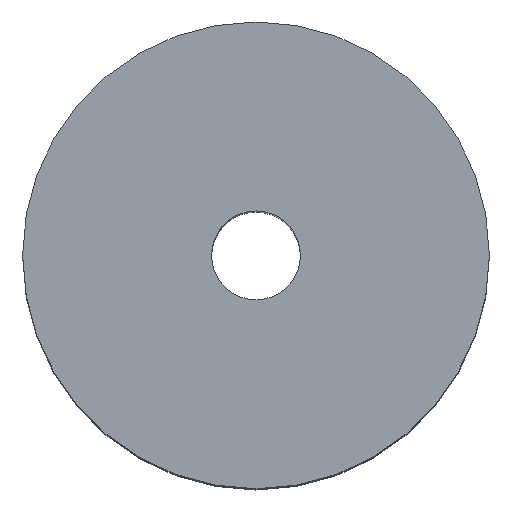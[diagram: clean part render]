
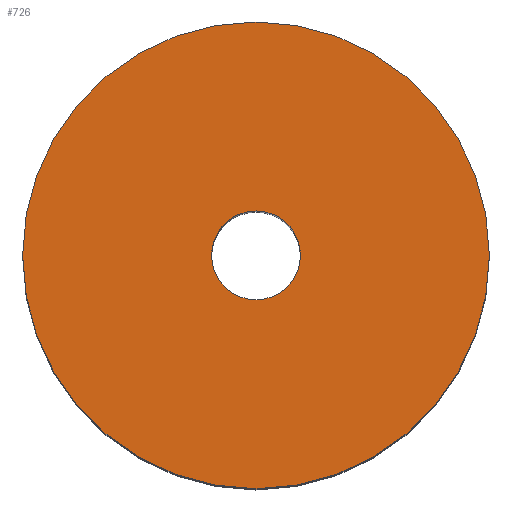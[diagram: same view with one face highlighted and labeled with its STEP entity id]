
A CAD part, top view. The second image highlights one B-rep face of the part: STEP entity #726.
In plain terms, the highlighted planar face has unit normal (0, 0, 1).
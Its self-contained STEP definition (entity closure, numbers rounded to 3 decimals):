
#582=CARTESIAN_POINT('Vertex',(10.5,0.,33.)) ;
#596=CARTESIAN_POINT('Vertex',(-10.5,0.,33.)) ;
#599=CARTESIAN_POINT('Axis2P3D Location',(0.,0.,33.)) ;
#616=CARTESIAN_POINT('Axis2P3D Location',(0.,0.,33.)) ;
#675=CARTESIAN_POINT('Axis2P3D Location',(0.,0.,33.)) ;
#679=CARTESIAN_POINT('Vertex',(2.,0.,33.)) ;
#681=CARTESIAN_POINT('Vertex',(-2.,0.,33.)) ;
#701=CARTESIAN_POINT('Axis2P3D Location',(0.,0.,33.)) ;
#713=CARTESIAN_POINT('Axis2P3D Location',(0.,0.,33.)) ;
#600=DIRECTION('Axis2P3D Direction',(0.,0.,1.)) ;
#617=DIRECTION('Axis2P3D Direction',(0.,0.,1.)) ;
#676=DIRECTION('Axis2P3D Direction',(0.,0.,1.)) ;
#702=DIRECTION('Axis2P3D Direction',(0.,0.,1.)) ;
#714=DIRECTION('Axis2P3D Direction',(0.,0.,1.)) ;
#715=DIRECTION('Axis2P3D XDirection',(1.,0.,0.)) ;
#601=AXIS2_PLACEMENT_3D('Circle Axis2P3D',#599,#600,$) ;
#618=AXIS2_PLACEMENT_3D('Circle Axis2P3D',#616,#617,$) ;
#677=AXIS2_PLACEMENT_3D('Circle Axis2P3D',#675,#676,$) ;
#703=AXIS2_PLACEMENT_3D('Circle Axis2P3D',#701,#702,$) ;
#716=AXIS2_PLACEMENT_3D('Plane Axis2P3D',#713,#714,#715) ;
#719=ORIENTED_EDGE('',*,*,#603,.T.) ;
#720=ORIENTED_EDGE('',*,*,#620,.T.) ;
#723=ORIENTED_EDGE('',*,*,#705,.F.) ;
#724=ORIENTED_EDGE('',*,*,#683,.F.) ;
#725=FACE_BOUND('',#722,.T.) ;
#726=ADVANCED_FACE('\X2\96F64EF651E04F554F53\X0\',(#721,#725),#717,.T.) ;
#602=CIRCLE('generated circle',#601,10.5) ;
#619=CIRCLE('generated circle',#618,10.5) ;
#678=CIRCLE('generated circle',#677,2.) ;
#704=CIRCLE('generated circle',#703,2.) ;
#603=EDGE_CURVE('',#583,#597,#602,.T.) ;
#620=EDGE_CURVE('',#597,#583,#619,.T.) ;
#683=EDGE_CURVE('',#680,#682,#678,.T.) ;
#705=EDGE_CURVE('',#682,#680,#704,.T.) ;
#718=EDGE_LOOP('',(#719,#720)) ;
#722=EDGE_LOOP('',(#723,#724)) ;
#721=FACE_OUTER_BOUND('',#718,.T.) ;
#717=PLANE('Plane',#716) ;
#583=VERTEX_POINT('',#582) ;
#597=VERTEX_POINT('',#596) ;
#680=VERTEX_POINT('',#679) ;
#682=VERTEX_POINT('',#681) ;
